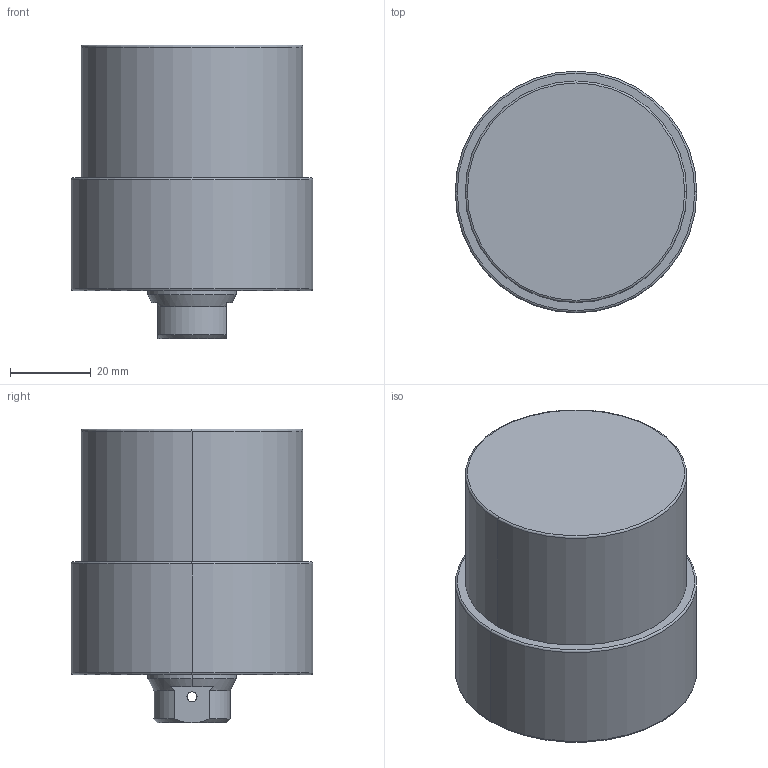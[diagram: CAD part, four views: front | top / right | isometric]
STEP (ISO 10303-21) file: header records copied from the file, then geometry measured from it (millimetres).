
FILE_DESCRIPTION (( 'STEP AP203' ), '1' );
FILE_NAME ('CLLU055-CB-020.STEP', '2017-05-12T11:18:52', ( '' ), ( '' ), 'SwSTEP 2.0', 'SolidWorks 2015', '' );
FILE_SCHEMA (( 'CONFIG_CONTROL_DESIGN' ));
Length unit declared in the file: millimetre
Products named in the file (1): CLLU055-CB-020
Bounding box: 60 x 60 x 73 mm (x, y, z)
Volume: 157861.2 mm3; surface area: 19073.1 mm2
Topology: 1 solids, 1 shells, 66 faces, 152 edges, 85 vertices
Faces by surface type: cylinder 26, cone 24, plane 10, torus 6
Entity records: 1971 total; most frequent: CARTESIAN_POINT 414, DIRECTION 340, ORIENTED_EDGE 284, AXIS2_PLACEMENT_3D 143, EDGE_CURVE 142, VERTEX_POINT 85, EDGE_LOOP 77, CIRCLE 76
